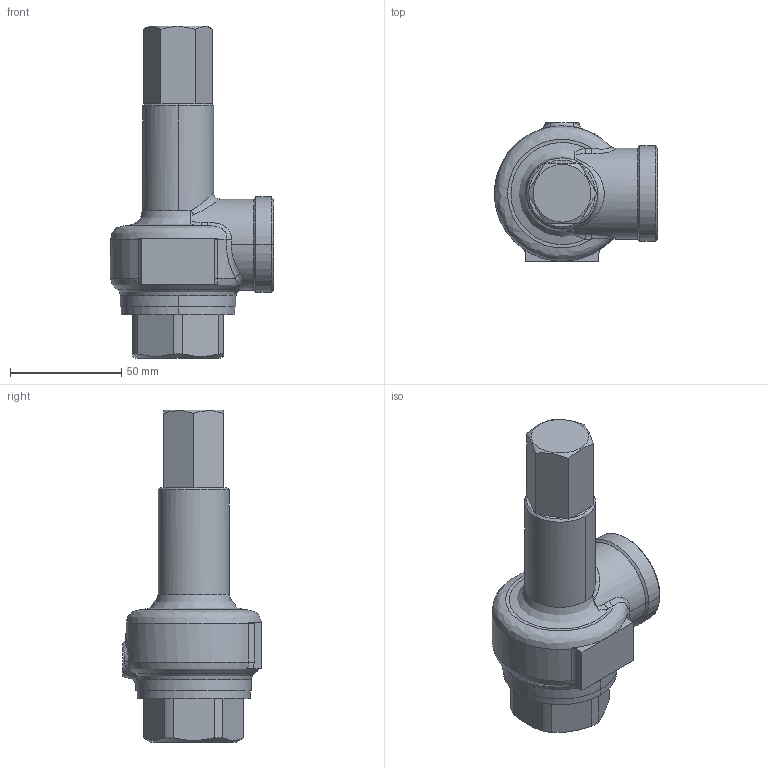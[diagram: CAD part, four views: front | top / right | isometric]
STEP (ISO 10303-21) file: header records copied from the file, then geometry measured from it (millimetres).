
FILE_DESCRIPTION( (''), '2;1');
FILE_NAME ('PC1027.9568.AL-140 25A_7915.stp','2025-07-28T13:39:03',(''),(''),'spGate 19.8.4 (****-****-****-****)','','');
FILE_SCHEMA (('AUTOMOTIVE_DESIGN'));
Length unit declared in the file: millimetre
Products named in the file (2): Assembly; AL-140 25A-3D
Assembly tree (1 placements, depth 2):
  Assembly
    AL-140 25A-3D
Bounding box: 73.44 x 62.5 x 149.5 mm (x, y, z)
Volume: 206299.4 mm3; surface area: 28494.8 mm2
Topology: 1 solids, 1 shells, 113 faces, 267 edges, 160 vertices
Faces by surface type: bspline 47, plane 40, cylinder 22, sphere 4
Entity records: 7180 total; most frequent: CARTESIAN_POINT 2715, ORIENTED_EDGE 534, DIRECTION 412, COLOUR_RGB 381, PRESENTATION_STYLE_ASSIGNMENT 381, STYLED_ITEM 381, EDGE_CURVE 267, DRAUGHTING_PRE_DEFINED_CURVE_FONT 267
